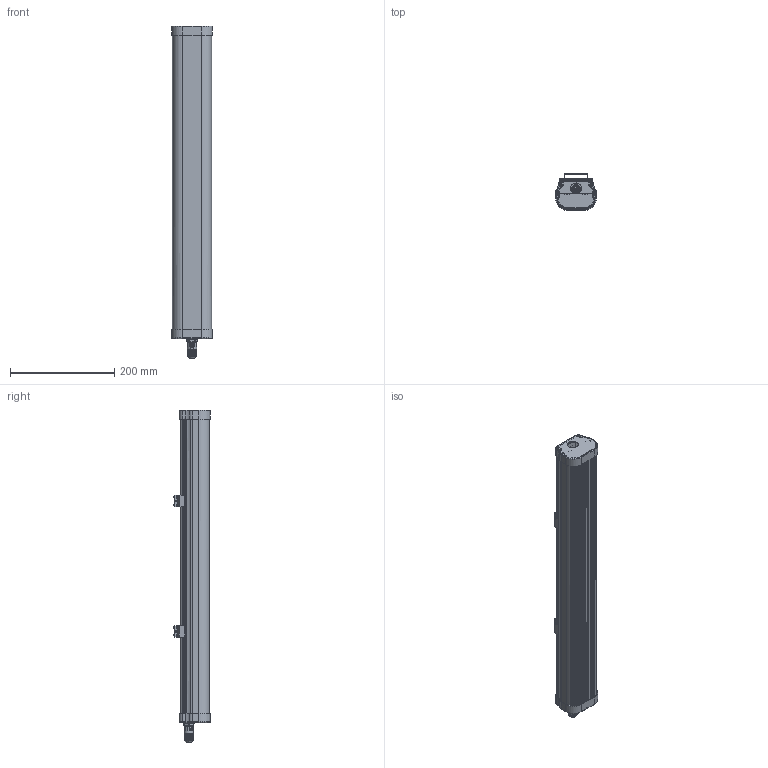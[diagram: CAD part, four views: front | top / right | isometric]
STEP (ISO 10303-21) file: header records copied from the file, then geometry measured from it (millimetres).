
FILE_DESCRIPTION(('Creo Elements/Direct Modeling STEP Export'),'2;1');
FILE_NAME('TP28_600mm.stp','2020-05-28T14:51:46',(''),(''),'PTC Creo Elements/Direct Modeling STEP processor for AP214 (Solid Model)','PTC Creo Elements/Direct Modeling 19.0E 27-Jun-2016 (C) Parametric Technology GmbH','');
FILE_SCHEMA(('AUTOMOTIVE_DESIGN { 1 0 10303 214 1 1 1 1 }'));
Length unit declared in the file: millimetre
Products named in the file (6): CAP1; CAP; CASING; HOLDER1; BOARD; TP28_1200MM
Assembly tree (6 placements, depth 2):
  TP28_1200MM
    BOARD
    HOLDER1  x2
    CASING
    CAP
    CAP1
Bounding box: 78.2 x 69.3 x 637.4 mm (x, y, z)
Volume: 203045.6 mm3; surface area: 473230.7 mm2
Topology: 7 solids, 8 shells, 2351 faces, 6312 edges, 4073 vertices
Faces by surface type: plane 1424, cylinder 630, torus 120, cone 75, bspline 66, extrusion 36
Entity records: 88173 total; most frequent: CARTESIAN_POINT 28072, ORIENTED_EDGE 11652, DIRECTION 10231, EDGE_CURVE 5826, VECTOR 3903, LINE 3867, VERTEX_POINT 3793, AXIS2_PLACEMENT_3D 3164
